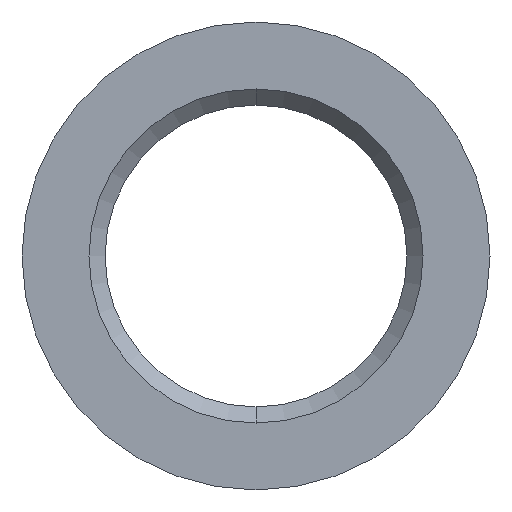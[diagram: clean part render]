
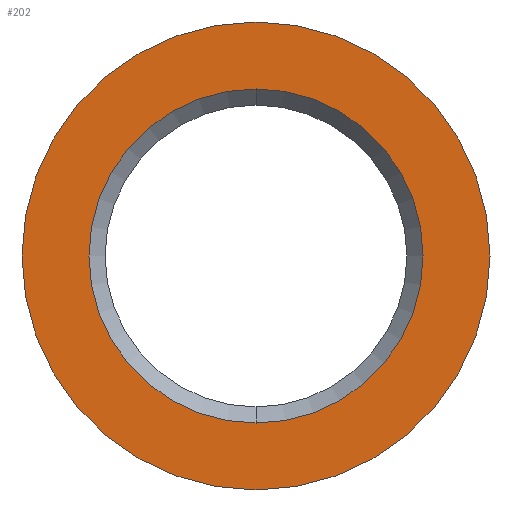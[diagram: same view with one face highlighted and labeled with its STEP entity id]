
A CAD part, left-side view. The second image highlights one B-rep face of the part: STEP entity #202.
In plain terms, the highlighted planar face has unit normal (-1, 0, 0).
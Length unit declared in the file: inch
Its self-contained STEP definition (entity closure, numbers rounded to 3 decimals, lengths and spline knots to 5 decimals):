
#6 = EDGE_CURVE ( 'NONE', #372, #229, #505, .T. ) ;
#18 = DIRECTION ( 'NONE',  ( 1., 0., 0. ) ) ;
#25 = AXIS2_PLACEMENT_3D ( 'NONE', #66, #552, #285 ) ;
#37 = ORIENTED_EDGE ( 'NONE', *, *, #199, .T. ) ;
#40 = AXIS2_PLACEMENT_3D ( 'NONE', #535, #113, #369 ) ;
#66 = CARTESIAN_POINT ( 'NONE',  ( -2.40024, 3.75748, 0. ) ) ;
#69 = CARTESIAN_POINT ( 'NONE',  ( -2.40024, 3.75748, 0.1035 ) ) ;
#113 = DIRECTION ( 'NONE',  ( 1., 0., 0. ) ) ;
#143 = ORIENTED_EDGE ( 'NONE', *, *, #203, .T. ) ;
#145 = CARTESIAN_POINT ( 'NONE',  ( -2.40024, 3.75748, 0. ) ) ;
#152 = PLANE ( 'NONE',  #40 ) ;
#173 = CIRCLE ( 'NONE', #25, 0.145 ) ;
#191 = DIRECTION ( 'NONE',  ( 0., 0., -1. ) ) ;
#198 = DIRECTION ( 'NONE',  ( -1., 0., 0. ) ) ;
#199 = EDGE_CURVE ( 'NONE', #229, #372, #173, .T. ) ;
#202 = ADVANCED_FACE ( 'NONE', ( #470, #259 ), #152, .F. ) ;
#203 = EDGE_CURVE ( 'NONE', #322, #498, #525, .T. ) ;
#229 = VERTEX_POINT ( 'NONE', #484 ) ;
#231 = CARTESIAN_POINT ( 'NONE',  ( -2.40024, 3.75748, 0.145 ) ) ;
#239 = EDGE_LOOP ( 'NONE', ( #249, #37 ) ) ;
#242 = AXIS2_PLACEMENT_3D ( 'NONE', #145, #440, #191 ) ;
#249 = ORIENTED_EDGE ( 'NONE', *, *, #6, .T. ) ;
#259 = FACE_OUTER_BOUND ( 'NONE', #239, .T. ) ;
#285 = DIRECTION ( 'NONE',  ( 0., 0., 1. ) ) ;
#288 = CARTESIAN_POINT ( 'NONE',  ( -2.40024, 3.75748, 0. ) ) ;
#308 = EDGE_LOOP ( 'NONE', ( #529, #143 ) ) ;
#322 = VERTEX_POINT ( 'NONE', #585 ) ;
#337 = DIRECTION ( 'NONE',  ( 0., 0., -1. ) ) ;
#347 = CIRCLE ( 'NONE', #453, 0.1035 ) ;
#358 = DIRECTION ( 'NONE',  ( 0., 0., 1. ) ) ;
#369 = DIRECTION ( 'NONE',  ( 0., 0., -1. ) ) ;
#372 = VERTEX_POINT ( 'NONE', #231 ) ;
#399 = CARTESIAN_POINT ( 'NONE',  ( -2.40024, 3.75748, 0. ) ) ;
#440 = DIRECTION ( 'NONE',  ( 1., 0., 0. ) ) ;
#453 = AXIS2_PLACEMENT_3D ( 'NONE', #288, #18, #337 ) ;
#470 = FACE_BOUND ( 'NONE', #308, .T. ) ;
#484 = CARTESIAN_POINT ( 'NONE',  ( -2.40024, 3.75748, -0.145 ) ) ;
#493 = EDGE_CURVE ( 'NONE', #498, #322, #347, .T. ) ;
#498 = VERTEX_POINT ( 'NONE', #69 ) ;
#505 = CIRCLE ( 'NONE', #562, 0.145 ) ;
#525 = CIRCLE ( 'NONE', #242, 0.1035 ) ;
#529 = ORIENTED_EDGE ( 'NONE', *, *, #493, .T. ) ;
#535 = CARTESIAN_POINT ( 'NONE',  ( -2.40024, 3.75748, 0. ) ) ;
#552 = DIRECTION ( 'NONE',  ( -1., 0., 0. ) ) ;
#562 = AXIS2_PLACEMENT_3D ( 'NONE', #399, #198, #358 ) ;
#585 = CARTESIAN_POINT ( 'NONE',  ( -2.40024, 3.75748, -0.1035 ) ) ;
